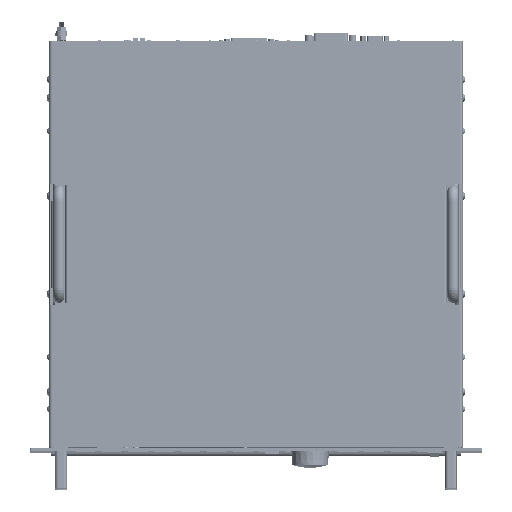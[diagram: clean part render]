
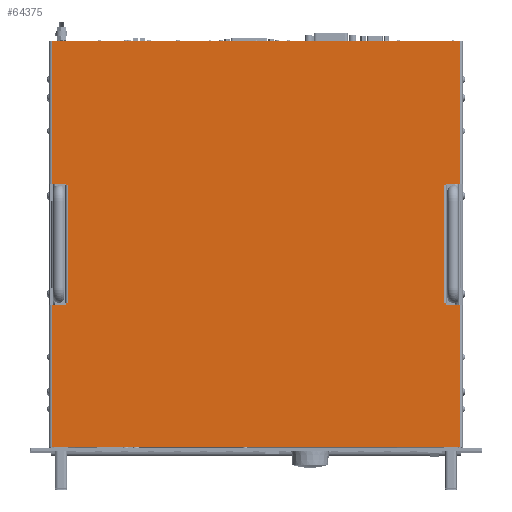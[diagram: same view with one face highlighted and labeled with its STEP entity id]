
A CAD part, top view. The second image highlights one B-rep face of the part: STEP entity #64375.
In plain terms, the highlighted planar face has unit normal (0, 0, 1).
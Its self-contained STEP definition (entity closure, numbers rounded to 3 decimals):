
#64375=ADVANCED_FACE('',(#132974),#132975,.F.);
#132974=FACE_OUTER_BOUND('',#230984,.T.);
#132975=PLANE('',#230985);
#230984=EDGE_LOOP('',(#420404,#420405,#420406,#420407,#420408,#420409,#420410,#420411,#420412,#420413,#420414,#420415,#420416,#420417,#420418,#420419,#420420,#420421,#420422,#420423));
#230985=AXIS2_PLACEMENT_3D('',#420424,#420425,#420426);
#420404=ORIENTED_EDGE('',*,*,#504494,.T.);
#420405=ORIENTED_EDGE('',*,*,#504514,.F.);
#420406=ORIENTED_EDGE('',*,*,#504515,.F.);
#420407=ORIENTED_EDGE('',*,*,#504158,.F.);
#420408=ORIENTED_EDGE('',*,*,#504480,.F.);
#420409=ORIENTED_EDGE('',*,*,#504143,.F.);
#420410=ORIENTED_EDGE('',*,*,#504469,.F.);
#420411=ORIENTED_EDGE('',*,*,#504516,.F.);
#420412=ORIENTED_EDGE('',*,*,#504512,.T.);
#420413=ORIENTED_EDGE('',*,*,#504507,.F.);
#420414=ORIENTED_EDGE('',*,*,#504504,.T.);
#420415=ORIENTED_EDGE('',*,*,#504517,.F.);
#420416=ORIENTED_EDGE('',*,*,#504445,.F.);
#420417=ORIENTED_EDGE('',*,*,#504133,.F.);
#420418=ORIENTED_EDGE('',*,*,#504434,.F.);
#420419=ORIENTED_EDGE('',*,*,#504153,.F.);
#420420=ORIENTED_EDGE('',*,*,#504518,.F.);
#420421=ORIENTED_EDGE('',*,*,#504519,.F.);
#420422=ORIENTED_EDGE('',*,*,#504491,.T.);
#420423=ORIENTED_EDGE('',*,*,#504499,.T.);
#420424=CARTESIAN_POINT('',(241.3,262.375,726.541));
#420425=DIRECTION('',(0.,0.,-1.0));
#420426=DIRECTION('',(-1.0,0.,0.));
#504133=EDGE_CURVE('',#614100,#614102,#614103,.T.);
#504143=EDGE_CURVE('',#614118,#614120,#614121,.T.);
#504153=EDGE_CURVE('',#614136,#614138,#614139,.T.);
#504158=EDGE_CURVE('',#614145,#614147,#614148,.T.);
#504434=EDGE_CURVE('',#614138,#614100,#614578,.T.);
#504445=EDGE_CURVE('',#614102,#614593,#614594,.T.);
#504469=EDGE_CURVE('',#614626,#614118,#614628,.T.);
#504480=EDGE_CURVE('',#614120,#614145,#614643,.T.);
#504491=EDGE_CURVE('',#614654,#614657,#614659,.T.);
#504494=EDGE_CURVE('',#614664,#614661,#614665,.T.);
#504499=EDGE_CURVE('',#614657,#614664,#614670,.T.);
#504504=EDGE_CURVE('',#614676,#614674,#614677,.T.);
#504507=EDGE_CURVE('',#614676,#614680,#614681,.T.);
#504512=EDGE_CURVE('',#614686,#614680,#614688,.T.);
#504514=EDGE_CURVE('',#614690,#614661,#614691,.T.);
#504515=EDGE_CURVE('',#614147,#614690,#614692,.T.);
#504516=EDGE_CURVE('',#614686,#614626,#614693,.T.);
#504517=EDGE_CURVE('',#614593,#614674,#614694,.T.);
#504518=EDGE_CURVE('',#614695,#614136,#614696,.T.);
#504519=EDGE_CURVE('',#614654,#614695,#614697,.T.);
#614100=VERTEX_POINT('',#772715);
#614102=VERTEX_POINT('',#772717);
#614103=LINE('',#772718,#772719);
#614118=VERTEX_POINT('',#772737);
#614120=VERTEX_POINT('',#772739);
#614121=LINE('',#772740,#772741);
#614136=VERTEX_POINT('',#772759);
#614138=VERTEX_POINT('',#772761);
#614139=LINE('',#772762,#772763);
#614145=VERTEX_POINT('',#772770);
#614147=VERTEX_POINT('',#772772);
#614148=LINE('',#772773,#772774);
#614578=LINE('',#773325,#773326);
#614593=VERTEX_POINT('',#773346);
#614594=LINE('',#773347,#773348);
#614626=VERTEX_POINT('',#773394);
#614628=LINE('',#773397,#773398);
#614643=LINE('',#773418,#773419);
#614654=VERTEX_POINT('',#773434);
#614657=VERTEX_POINT('',#773438);
#614659=LINE('',#773440,#773441);
#614661=VERTEX_POINT('',#773443);
#614664=VERTEX_POINT('',#773447);
#614665=LINE('',#773448,#773449);
#614670=LINE('',#773454,#773455);
#614674=VERTEX_POINT('',#773460);
#614676=VERTEX_POINT('',#773463);
#614677=LINE('',#773464,#773465);
#614680=VERTEX_POINT('',#773468);
#614681=LINE('',#773469,#773470);
#614686=VERTEX_POINT('',#773475);
#614688=LINE('',#773478,#773479);
#614690=VERTEX_POINT('',#773481);
#614691=LINE('',#773482,#773483);
#614692=LINE('',#773484,#773485);
#614693=LINE('',#773486,#773487);
#614694=LINE('',#773488,#773489);
#614695=VERTEX_POINT('',#773490);
#614696=LINE('',#773491,#773492);
#614697=LINE('',#773493,#773494);
#772715=CARTESIAN_POINT('',(458.977,479.,726.541));
#772717=CARTESIAN_POINT('',(458.977,327.,726.541));
#772718=CARTESIAN_POINT('',(458.977,332.688,726.541));
#772719=VECTOR('',#861023,1.0);
#772737=CARTESIAN_POINT('',(458.977,197.75,726.541));
#772739=CARTESIAN_POINT('',(458.977,45.75,726.541));
#772740=CARTESIAN_POINT('',(458.977,192.063,726.541));
#772741=VECTOR('',#861039,1.0);
#772759=CARTESIAN_POINT('',(23.623,327.,726.541));
#772761=CARTESIAN_POINT('',(23.623,479.,726.541));
#772762=CARTESIAN_POINT('',(23.623,332.688,726.541));
#772763=VECTOR('',#861055,1.0);
#772770=CARTESIAN_POINT('',(23.623,45.75,726.541));
#772772=CARTESIAN_POINT('',(23.623,197.75,726.541));
#772773=CARTESIAN_POINT('',(23.623,192.063,726.541));
#772774=VECTOR('',#861063,1.0);
#773325=CARTESIAN_POINT('',(20.873,479.,726.541));
#773326=VECTOR('',#861449,1.0);
#773346=CARTESIAN_POINT('',(443.727,327.,726.541));
#773347=CARTESIAN_POINT('',(461.727,327.,726.541));
#773348=VECTOR('',#861467,1.0);
#773394=CARTESIAN_POINT('',(443.727,197.75,726.541));
#773397=CARTESIAN_POINT('',(443.727,197.75,726.541));
#773398=VECTOR('',#861495,1.0);
#773418=CARTESIAN_POINT('',(461.727,45.75,726.541));
#773419=VECTOR('',#861513,1.0);
#773434=CARTESIAN_POINT('',(38.873,325.,726.541));
#773438=CARTESIAN_POINT('',(40.623,325.,726.541));
#773440=CARTESIAN_POINT('',(140.007,325.,726.541));
#773441=VECTOR('',#861525,1.0);
#773443=CARTESIAN_POINT('',(38.873,199.75,726.541));
#773447=CARTESIAN_POINT('',(40.623,199.75,726.541));
#773448=CARTESIAN_POINT('',(140.007,199.75,726.541));
#773449=VECTOR('',#861527,1.0);
#773454=CARTESIAN_POINT('',(40.623,262.375,726.541));
#773455=VECTOR('',#861537,1.0);
#773460=CARTESIAN_POINT('',(443.727,325.,726.541));
#773463=CARTESIAN_POINT('',(441.977,325.,726.541));
#773464=CARTESIAN_POINT('',(342.593,325.,726.541));
#773465=VECTOR('',#861540,1.0);
#773468=CARTESIAN_POINT('',(441.977,199.75,726.541));
#773469=CARTESIAN_POINT('',(441.977,262.375,726.541));
#773470=VECTOR('',#861544,1.0);
#773475=CARTESIAN_POINT('',(443.727,199.75,726.541));
#773478=CARTESIAN_POINT('',(342.593,199.75,726.541));
#773479=VECTOR('',#861552,1.0);
#773481=CARTESIAN_POINT('',(38.873,197.75,726.541));
#773482=CARTESIAN_POINT('',(38.873,197.75,726.541));
#773483=VECTOR('',#861553,1.0);
#773484=CARTESIAN_POINT('',(20.873,197.75,726.541));
#773485=VECTOR('',#861554,1.0);
#773486=CARTESIAN_POINT('',(443.727,199.75,726.541));
#773487=VECTOR('',#861555,1.0);
#773488=CARTESIAN_POINT('',(443.727,327.,726.541));
#773489=VECTOR('',#861556,1.0);
#773490=CARTESIAN_POINT('',(38.873,327.,726.541));
#773491=CARTESIAN_POINT('',(38.873,327.,726.541));
#773492=VECTOR('',#861557,1.0);
#773493=CARTESIAN_POINT('',(38.873,325.,726.541));
#773494=VECTOR('',#861558,1.0);
#861023=DIRECTION('',(0.0,-1.0,0.0));
#861039=DIRECTION('',(0.0,-1.0,0.0));
#861055=DIRECTION('',(0.0,1.0,0.0));
#861063=DIRECTION('',(0.0,1.0,0.0));
#861449=DIRECTION('',(1.0,0.0,0.0));
#861467=DIRECTION('',(-1.0,0.0,0.0));
#861495=DIRECTION('',(1.0,0.0,0.0));
#861513=DIRECTION('',(-1.0,0.0,0.0));
#861525=DIRECTION('',(1.0,0.0,0.0));
#861527=DIRECTION('',(-1.0,0.,0.0));
#861537=DIRECTION('',(0.0,-1.0,0.0));
#861540=DIRECTION('',(1.0,0.0,0.0));
#861544=DIRECTION('',(0.0,-1.0,0.0));
#861552=DIRECTION('',(-1.0,0.,0.0));
#861553=DIRECTION('',(0.0,1.0,0.0));
#861554=DIRECTION('',(1.0,0.0,0.0));
#861555=DIRECTION('',(0.0,-1.0,0.0));
#861556=DIRECTION('',(0.0,-1.0,0.0));
#861557=DIRECTION('',(-1.0,0.0,0.0));
#861558=DIRECTION('',(0.0,1.0,0.0));
